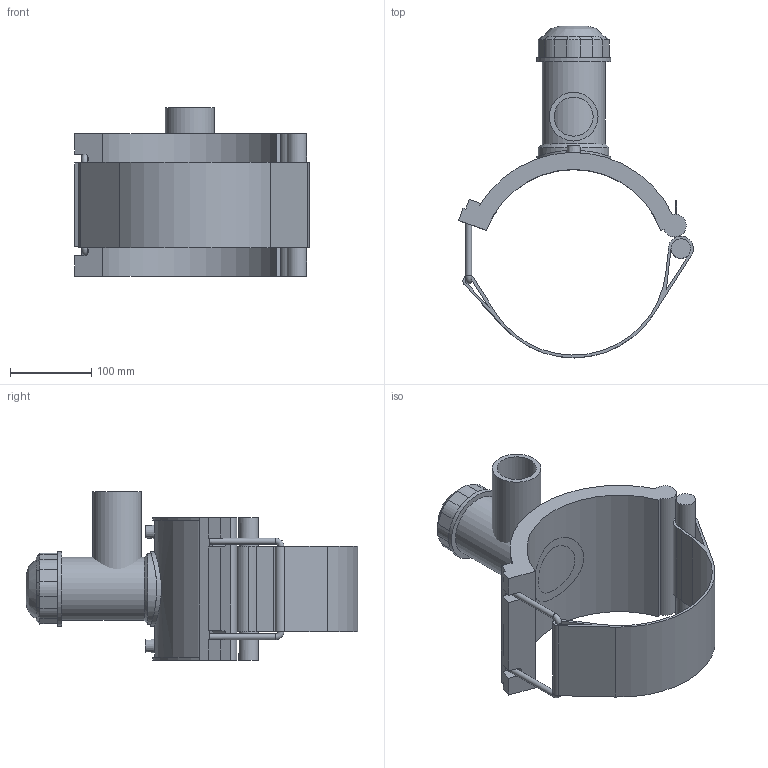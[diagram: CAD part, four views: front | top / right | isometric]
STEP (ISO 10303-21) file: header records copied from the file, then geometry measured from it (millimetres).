
FILE_DESCRIPTION(/* description */ ('PLASSON TAPPING SADDLE 8''''DIPS x 2''''IPS'),/* implementation_level */ '2;1');
FILE_NAME(/* name */ 'C:\Dropbox\KIMPROJECTS-Inventor 2019\99-16-3568-Processing Inch\ASTM ElectroFusion 2021\5963DBP_5963BUP\5963DBP_5963BUP.ipt.stp',/* time_stamp */ '2021-08-30T09:58:51+03:00',/* author */ ('KIM'),/* organization */ (''),/* preprocessor_version */ 'ST-DEVELOPER v17.2',/* originating_system */ 'Autodesk Inventor 2019',/* authorisation */ '');
FILE_SCHEMA (('AUTOMOTIVE_DESIGN { 1 0 10303 214 3 1 1 }'));
Length unit declared in the file: inch
Products named in the file (1): 5963DBP3080020
Bounding box: 289.75 x 409.37 x 207.9 mm (x, y, z)
Volume: 2066642.7 mm3; surface area: 404596.7 mm2
Topology: 3 solids, 3 shells, 125 faces, 315 edges, 206 vertices
Faces by surface type: plane 69, cylinder 40, cone 13, torus 2, bspline 1
Full cylindrical faces by diameter (mm): 4 x2, 7.325 x2, 10 x2, 24.123 x1, 48.08 x1, 60.1 x1, 64.092 x1, 77.826 x1, 86.982 x1, 91.56 x2
Entity records: 4185 total; most frequent: CARTESIAN_POINT 1043, DIRECTION 661, ORIENTED_EDGE 632, EDGE_CURVE 316, AXIS2_PLACEMENT_3D 240, VERTEX_POINT 206, LINE 181, VECTOR 181
